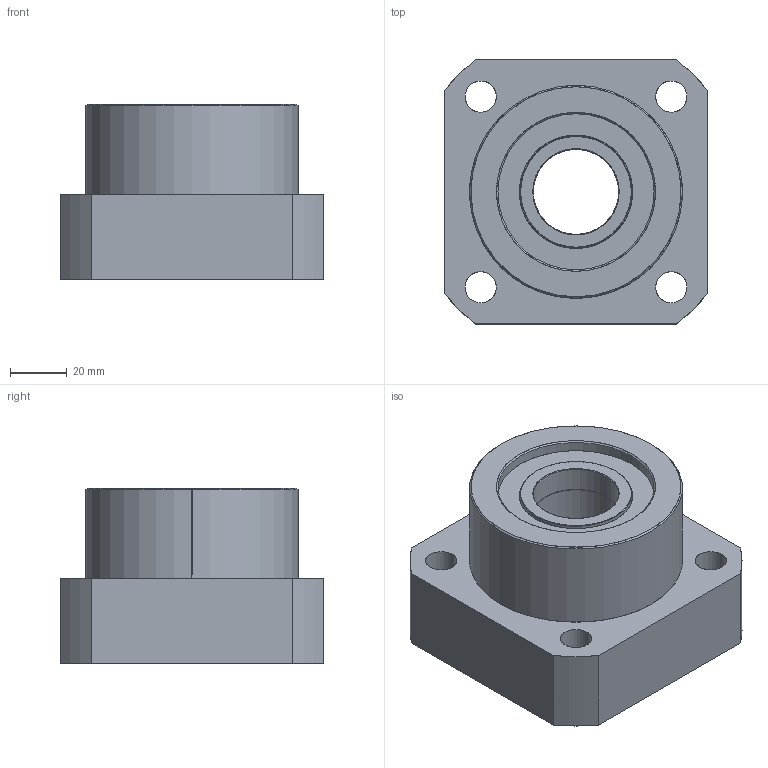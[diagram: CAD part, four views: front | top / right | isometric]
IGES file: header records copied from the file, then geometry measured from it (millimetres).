
Start section: SolidWorks IGES file using analytic representation for surfaces
Global section: file name: E:\同创达图纸\产品示意图\3D选型图\支撑座\FK系列\FK30.IGS; native system: SolidWorks 2012; preprocessor: SolidWorks 2012; author: gao; date: 130702.205452; units: millimetre
Bounding box: 93 x 93 x 62 mm (x, y, z)
Surface area: 51134.3 mm2 (no closed solid volume)
Topology: 0 solids, 0 shells, 81 faces, 2080 edges, 2080 vertices
Faces by surface type: revolution 62, bspline 19
